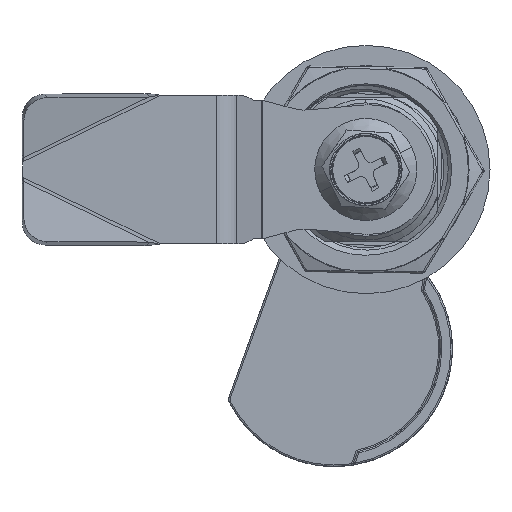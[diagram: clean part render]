
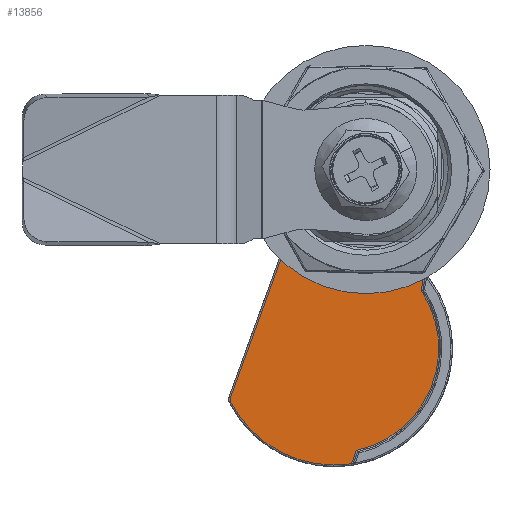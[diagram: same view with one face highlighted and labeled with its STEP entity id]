
A CAD part, front view. The second image highlights one B-rep face of the part: STEP entity #13856.
In plain terms, the highlighted planar face has unit normal (0, -1, 0).
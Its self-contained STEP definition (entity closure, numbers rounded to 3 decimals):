
#60 = EDGE_LOOP ( 'NONE', ( #45715, #61495 ) ) ;
#883 = CARTESIAN_POINT ( 'NONE',  ( 0., 0.9, -12.1 ) ) ;
#2896 = VECTOR ( 'NONE', #49177, 1000. ) ;
#3729 = CARTESIAN_POINT ( 'NONE',  ( -4.138, 0.9, -23.47 ) ) ;
#3818 = EDGE_CURVE ( 'NONE', #74688, #73694, #13388, .T. ) ;
#5097 = VERTEX_POINT ( 'NONE', #16960 ) ;
#5654 = DIRECTION ( 'NONE',  ( -0.94, 0., 0.342 ) ) ;
#5811 = VERTEX_POINT ( 'NONE', #25741 ) ;
#6856 = ORIENTED_EDGE ( 'NONE', *, *, #59378, .T. ) ;
#10558 = DIRECTION ( 'NONE',  ( -0.94, 0., 0.342 ) ) ;
#11190 = DIRECTION ( 'NONE',  ( -0.94, 0., 0.342 ) ) ;
#12667 = EDGE_CURVE ( 'NONE', #37041, #60442, #77149, .T. ) ;
#13388 = CIRCLE ( 'NONE', #24638, 13.7 ) ;
#13856 = ADVANCED_FACE ( 'NONE', ( #21021, #46969 ), #61885, .F. ) ;
#13990 = DIRECTION ( 'NONE',  ( 0., 1., 0. ) ) ;
#15285 = CARTESIAN_POINT ( 'NONE',  ( 7.269, 0.9, -15.883 ) ) ;
#15841 = CARTESIAN_POINT ( 'NONE',  ( -4.138, 0.9, -23.47 ) ) ;
#16960 = CARTESIAN_POINT ( 'NONE',  ( -9.999, 0.9, -9.337 ) ) ;
#17779 = DIRECTION ( 'NONE',  ( 0., -1., 0. ) ) ;
#17808 = ORIENTED_EDGE ( 'NONE', *, *, #46971, .T. ) ;
#17978 = CARTESIAN_POINT ( 'NONE',  ( -4.138, 0.9, -23.47 ) ) ;
#21021 = FACE_BOUND ( 'NONE', #60, .T. ) ;
#21090 = DIRECTION ( 'NONE',  ( 0., 1., 0. ) ) ;
#22441 = DIRECTION ( 'NONE',  ( 0., -1., 0. ) ) ;
#22642 = EDGE_CURVE ( 'NONE', #5811, #30091, #58944, .T. ) ;
#24638 = AXIS2_PLACEMENT_3D ( 'NONE', #15841, #22441, #10558 ) ;
#25741 = CARTESIAN_POINT ( 'NONE',  ( 1.55, 0.9, -12.664 ) ) ;
#26313 = DIRECTION ( 'NONE',  ( 0., -1., 0. ) ) ;
#27727 = VERTEX_POINT ( 'NONE', #85260 ) ;
#29304 = EDGE_CURVE ( 'NONE', #73694, #53645, #69306, .T. ) ;
#30091 = VERTEX_POINT ( 'NONE', #51751 ) ;
#35060 = CIRCLE ( 'NONE', #84155, 1.65 ) ;
#35482 = CARTESIAN_POINT ( 'NONE',  ( -17.712, 0.9, -30.53 ) ) ;
#36711 = CIRCLE ( 'NONE', #54973, 0.8 ) ;
#37041 = VERTEX_POINT ( 'NONE', #35482 ) ;
#38274 = CARTESIAN_POINT ( 'NONE',  ( -10.444, 0.9, -9.802 ) ) ;
#40335 = CARTESIAN_POINT ( 'NONE',  ( -9.692, 0.9, -10.076 ) ) ;
#40714 = CIRCLE ( 'NONE', #56139, 0.8 ) ;
#44065 = ORIENTED_EDGE ( 'NONE', *, *, #66709, .T. ) ;
#45715 = ORIENTED_EDGE ( 'NONE', *, *, #51877, .T. ) ;
#46969 = FACE_OUTER_BOUND ( 'NONE', #84408, .T. ) ;
#46971 = EDGE_CURVE ( 'NONE', #66103, #27727, #86111, .T. ) ;
#48681 = CARTESIAN_POINT ( 'NONE',  ( -1.878, 0.9, -38.602 ) ) ;
#48695 = DIRECTION ( 'NONE',  ( -0.94, 0., 0.342 ) ) ;
#49177 = DIRECTION ( 'NONE',  ( 0.342, 0., 0.94 ) ) ;
#51751 = CARTESIAN_POINT ( 'NONE',  ( -1.55, 0.9, -11.536 ) ) ;
#51877 = EDGE_CURVE ( 'NONE', #30091, #5811, #35060, .T. ) ;
#52038 = CARTESIAN_POINT ( 'NONE',  ( 0., 0.9, -12.1 ) ) ;
#53394 = AXIS2_PLACEMENT_3D ( 'NONE', #61021, #13990, #48695 ) ;
#53543 = DIRECTION ( 'NONE',  ( -0.94, 0., 0.342 ) ) ;
#53554 = CARTESIAN_POINT ( 'NONE',  ( 7.634, 0.9, -13.698 ) ) ;
#53645 = VERTEX_POINT ( 'NONE', #53554 ) ;
#54299 = CARTESIAN_POINT ( 'NONE',  ( -17.003, 0.9, -30.161 ) ) ;
#54973 = AXIS2_PLACEMENT_3D ( 'NONE', #54299, #61754, #67478 ) ;
#55773 = LINE ( 'NONE', #82546, #2896 ) ;
#56139 = AXIS2_PLACEMENT_3D ( 'NONE', #40335, #74144, #53543 ) ;
#57428 = DIRECTION ( 'NONE',  ( 0.165, 0., 0.986 ) ) ;
#58944 = CIRCLE ( 'NONE', #86949, 1.65 ) ;
#59378 = EDGE_CURVE ( 'NONE', #5097, #66103, #40714, .T. ) ;
#59676 = EDGE_CURVE ( 'NONE', #53645, #5097, #75832, .T. ) ;
#59702 = ORIENTED_EDGE ( 'NONE', *, *, #12667, .T. ) ;
#59771 = CARTESIAN_POINT ( 'NONE',  ( -14.099, 0.9, -19.845 ) ) ;
#60158 = VECTOR ( 'NONE', #86534, 1000. ) ;
#60442 = VERTEX_POINT ( 'NONE', #48681 ) ;
#61021 = CARTESIAN_POINT ( 'NONE',  ( -4.138, 0.9, -23.47 ) ) ;
#61495 = ORIENTED_EDGE ( 'NONE', *, *, #22642, .T. ) ;
#61754 = DIRECTION ( 'NONE',  ( 0., -1., 0. ) ) ;
#61885 = PLANE ( 'NONE',  #53394 ) ;
#65748 = CARTESIAN_POINT ( 'NONE',  ( -1.244, 0.9, -36.861 ) ) ;
#66103 = VERTEX_POINT ( 'NONE', #38274 ) ;
#66709 = EDGE_CURVE ( 'NONE', #60442, #74688, #55773, .T. ) ;
#67478 = DIRECTION ( 'NONE',  ( -0.94, 0., 0.342 ) ) ;
#68910 = VECTOR ( 'NONE', #57428, 1000. ) ;
#69306 = LINE ( 'NONE', #82047, #68910 ) ;
#71497 = AXIS2_PLACEMENT_3D ( 'NONE', #3729, #17779, #11190 ) ;
#72221 = DIRECTION ( 'NONE',  ( -0.94, 0., 0.342 ) ) ;
#73694 = VERTEX_POINT ( 'NONE', #15285 ) ;
#74144 = DIRECTION ( 'NONE',  ( 0., -1., 0. ) ) ;
#74437 = EDGE_CURVE ( 'NONE', #27727, #37041, #36711, .T. ) ;
#74688 = VERTEX_POINT ( 'NONE', #65748 ) ;
#75832 = CIRCLE ( 'NONE', #78573, 15.3 ) ;
#77149 = CIRCLE ( 'NONE', #71497, 15.3 ) ;
#78573 = AXIS2_PLACEMENT_3D ( 'NONE', #17978, #26313, #5654 ) ;
#79237 = DIRECTION ( 'NONE',  ( 0., 1., 0. ) ) ;
#79631 = ORIENTED_EDGE ( 'NONE', *, *, #59676, .T. ) ;
#80006 = ORIENTED_EDGE ( 'NONE', *, *, #74437, .T. ) ;
#80834 = DIRECTION ( 'NONE',  ( -0.94, 0., 0.342 ) ) ;
#82047 = CARTESIAN_POINT ( 'NONE',  ( 5.724, 0.9, -25.12 ) ) ;
#82546 = CARTESIAN_POINT ( 'NONE',  ( 2.721, 0.9, -25.967 ) ) ;
#82903 = ORIENTED_EDGE ( 'NONE', *, *, #3818, .T. ) ;
#84155 = AXIS2_PLACEMENT_3D ( 'NONE', #52038, #79237, #72221 ) ;
#84232 = ORIENTED_EDGE ( 'NONE', *, *, #29304, .T. ) ;
#84408 = EDGE_LOOP ( 'NONE', ( #80006, #59702, #44065, #82903, #84232, #79631, #6856, #17808 ) ) ;
#85260 = CARTESIAN_POINT ( 'NONE',  ( -17.754, 0.9, -29.887 ) ) ;
#86111 = LINE ( 'NONE', #59771, #60158 ) ;
#86534 = DIRECTION ( 'NONE',  ( -0.342, 0., -0.94 ) ) ;
#86949 = AXIS2_PLACEMENT_3D ( 'NONE', #883, #21090, #80834 ) ;
